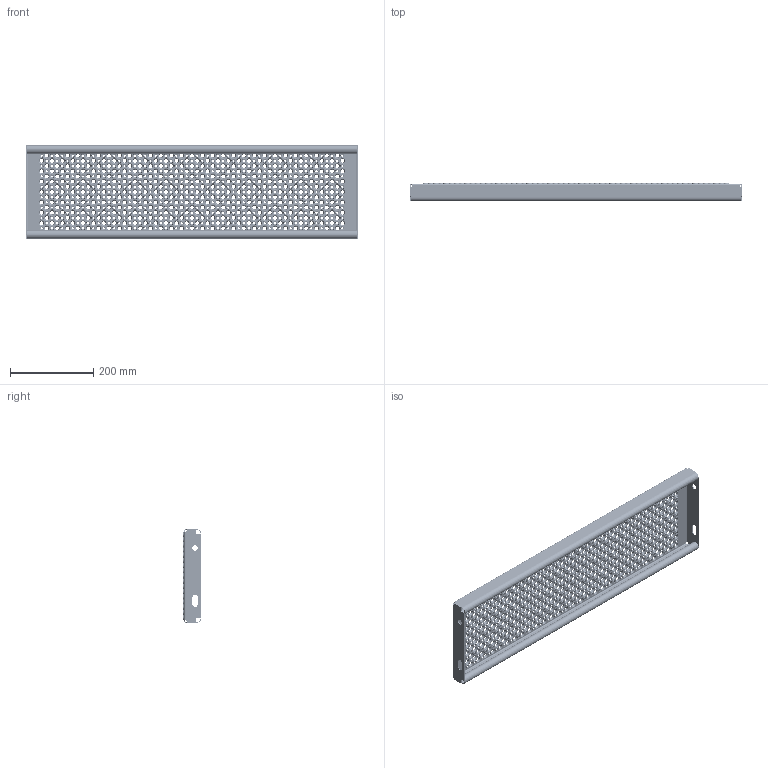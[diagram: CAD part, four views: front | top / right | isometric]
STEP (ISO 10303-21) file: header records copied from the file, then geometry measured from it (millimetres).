
FILE_DESCRIPTION (( 'STEP AP214' ), '1' );
FILE_NAME ('OPTIMO-Tread-Achil-O2-800x225x45x2-st240-F100210100.STEP', '2021-03-16T07:07:33', ( '' ), ( '' ), 'SwSTEP 2.0', 'SolidWorks 2021', '' );
FILE_SCHEMA (( 'AUTOMOTIVE_DESIGN' ));
Products named in the file (1): OPTIMO-Tread-Achil-O2-800x225x45x2-st240-F100210100
Bounding box: 800 x 45 x 225 mm (x, y, z)
Volume: 642603.2 mm3; surface area: 696858.4 mm2
Topology: 1 solids, 1 shells, 10112 faces, 26278 edges, 16168 vertices
Faces by surface type: cone 6018, torus 4012, plane 38, cylinder 36, bspline 8
Entity records: 321868 total; most frequent: DIRECTION 66572, CARTESIAN_POINT 53151, ORIENTED_EDGE 52556, AXIS2_PLACEMENT_3D 30221, EDGE_CURVE 26278, CIRCLE 20116, VERTEX_POINT 16168, EDGE_LOOP 12126
